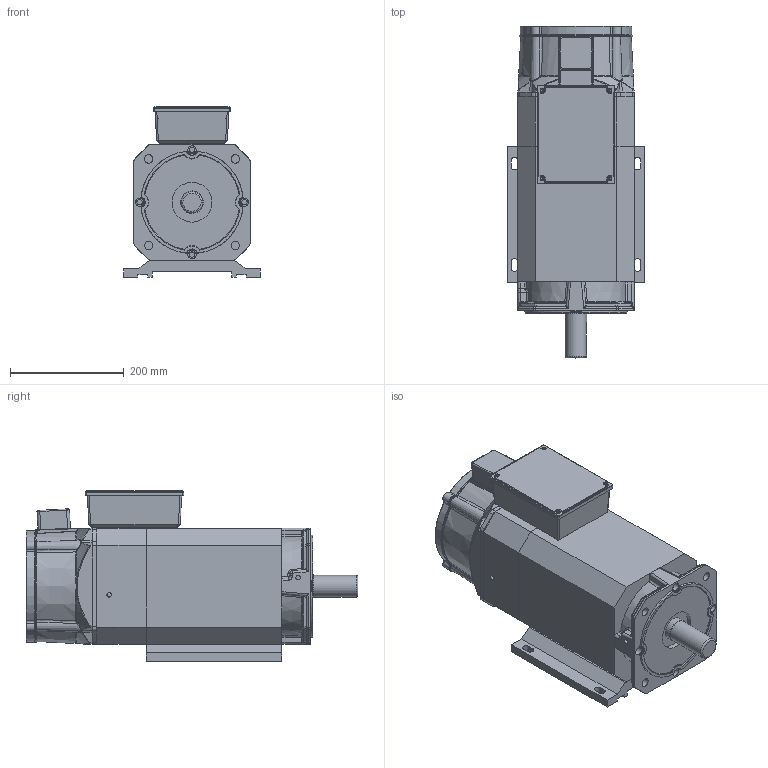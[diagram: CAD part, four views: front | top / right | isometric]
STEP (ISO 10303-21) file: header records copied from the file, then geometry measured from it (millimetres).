
FILE_DESCRIPTION(/* description */ (''),/* implementation_level */ '2;1');
FILE_NAME(/* name */ '204ZJY-4-7.5-15.stp',/* time_stamp */ '2024-01-15T16:58:09+08:00',/* author */ (''),/* organization */ (''),/* preprocessor_version */ 'ST-DEVELOPER v18.1',/* originating_system */ 'SIEMENS PLM Software NX 2000',/* authorisation */ '');
FILE_SCHEMA (('AUTOMOTIVE_DESIGN { 1 0 10303 214 3 1 1 1 }'));
Products named in the file (1): 204ZJY-4-2.2-15电机外形图
Bounding box: 240 x 583 x 300 mm (x, y, z)
Volume: 15583406.6 mm3; surface area: 1212148.4 mm2
Topology: 10 solids, 10 shells, 1906 faces, 4761 edges, 2835 vertices
Faces by surface type: cylinder 751, torus 447, plane 385, bspline 248, cone 63, sphere 12
Full cylindrical faces by diameter (mm): 4 x10, 5 x10, 6 x10, 6.5 x4, 7 x8, 7.5 x4, 8 x4, 9.5 x8, 11 x8, 13.5 x2, 14.5 x4, 15 x5, 28 x1, 38 x1, 39.8 x1, 40 x1, 70 x1, 187 x1
Entity records: 63129 total; most frequent: CARTESIAN_POINT 22071, ORIENTED_EDGE 9082, DIRECTION 7651, EDGE_CURVE 4541, AXIS2_PLACEMENT_3D 3196, VERTEX_POINT 2776, EDGE_LOOP 2167, ADVANCED_FACE 1906
